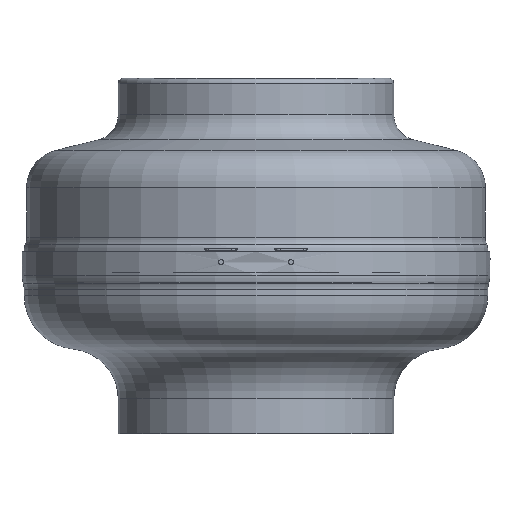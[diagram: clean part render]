
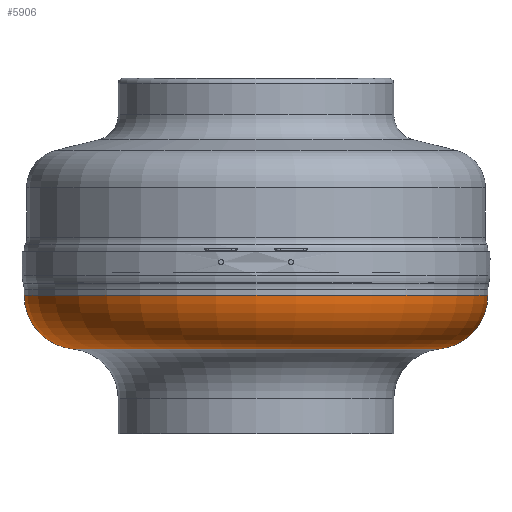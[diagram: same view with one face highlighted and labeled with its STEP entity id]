
A CAD part, front view. The second image highlights one B-rep face of the part: STEP entity #5906.
In plain terms, the highlighted toroidal (fillet/blend) face has major radius 102.7 mm and minor radius 31 mm.
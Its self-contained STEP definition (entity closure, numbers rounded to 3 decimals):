
#203 = EDGE_CURVE ( 'NONE', #3336, #3296, #399, .T. ) ;
#399 = CIRCLE ( 'NONE', #5371, 105.697 ) ;
#648 = DIRECTION ( 'NONE',  ( 0., 1., 0. ) ) ;
#819 = ORIENTED_EDGE ( 'NONE', *, *, #1819, .F. ) ;
#1139 = ORIENTED_EDGE ( 'NONE', *, *, #6621, .F. ) ;
#1273 = DIRECTION ( 'NONE',  ( 0., 0., 1. ) ) ;
#1513 = DIRECTION ( 'NONE',  ( 1., 0., 0. ) ) ;
#1556 = CARTESIAN_POINT ( 'NONE',  ( 133.7, 0., -13.281 ) ) ;
#1782 = DIRECTION ( 'NONE',  ( 0., 0., 1. ) ) ;
#1791 = CARTESIAN_POINT ( 'NONE',  ( -102.7, 0., -13.281 ) ) ;
#1819 = EDGE_CURVE ( 'NONE', #8232, #5806, #7672, .T. ) ;
#2052 = CIRCLE ( 'NONE', #3199, 31. ) ;
#2406 = FACE_OUTER_BOUND ( 'NONE', #3574, .T. ) ;
#3199 = AXIS2_PLACEMENT_3D ( 'NONE', #1791, #648, #5957 ) ;
#3296 = VERTEX_POINT ( 'NONE', #4523 ) ;
#3336 = VERTEX_POINT ( 'NONE', #4688 ) ;
#3574 = EDGE_LOOP ( 'NONE', ( #1139, #7005, #5077, #819 ) ) ;
#3746 = CARTESIAN_POINT ( 'NONE',  ( 102.7, 0., -13.281 ) ) ;
#4458 = AXIS2_PLACEMENT_3D ( 'NONE', #7116, #1782, #6395 ) ;
#4523 = CARTESIAN_POINT ( 'NONE',  ( 105.697, 0., -44.136 ) ) ;
#4533 = AXIS2_PLACEMENT_3D ( 'NONE', #3746, #8540, #5160 ) ;
#4565 = AXIS2_PLACEMENT_3D ( 'NONE', #5558, #6174, #1513 ) ;
#4653 = CARTESIAN_POINT ( 'NONE',  ( 0., 0., -44.136 ) ) ;
#4688 = CARTESIAN_POINT ( 'NONE',  ( -105.697, 0., -44.136 ) ) ;
#5077 = ORIENTED_EDGE ( 'NONE', *, *, #5542, .T. ) ;
#5160 = DIRECTION ( 'NONE',  ( 1., 0., 0. ) ) ;
#5320 = CARTESIAN_POINT ( 'NONE',  ( -133.7, 0., -13.281 ) ) ;
#5371 = AXIS2_PLACEMENT_3D ( 'NONE', #4653, #1273, #6019 ) ;
#5542 = EDGE_CURVE ( 'NONE', #3296, #5806, #8209, .T. ) ;
#5558 = CARTESIAN_POINT ( 'NONE',  ( 0., 0., -13.281 ) ) ;
#5806 = VERTEX_POINT ( 'NONE', #1556 ) ;
#5906 = ADVANCED_FACE ( 'NONE', ( #2406 ), #7575, .T. ) ;
#5957 = DIRECTION ( 'NONE',  ( -1., 0., 0. ) ) ;
#6019 = DIRECTION ( 'NONE',  ( 1., 0., 0. ) ) ;
#6174 = DIRECTION ( 'NONE',  ( 0., 0., 1. ) ) ;
#6395 = DIRECTION ( 'NONE',  ( 1., 0., 0. ) ) ;
#6621 = EDGE_CURVE ( 'NONE', #3336, #8232, #2052, .T. ) ;
#7005 = ORIENTED_EDGE ( 'NONE', *, *, #203, .T. ) ;
#7116 = CARTESIAN_POINT ( 'NONE',  ( 0., 0., -13.281 ) ) ;
#7575 = TOROIDAL_SURFACE ( 'NONE', #4458, 102.7, 31. ) ;
#7672 = CIRCLE ( 'NONE', #4565, 133.7 ) ;
#8209 = CIRCLE ( 'NONE', #4533, 31. ) ;
#8232 = VERTEX_POINT ( 'NONE', #5320 ) ;
#8540 = DIRECTION ( 'NONE',  ( 0., -1., 0. ) ) ;
